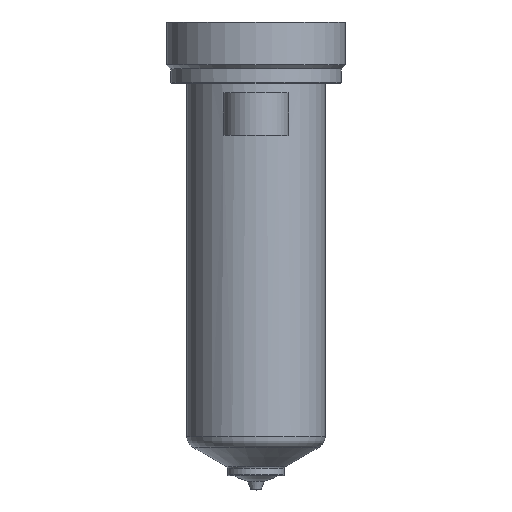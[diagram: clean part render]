
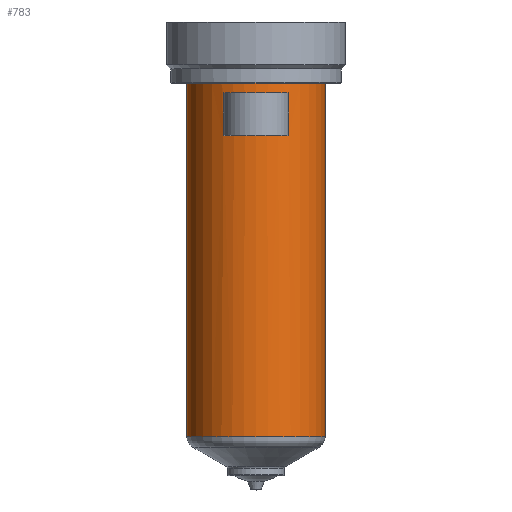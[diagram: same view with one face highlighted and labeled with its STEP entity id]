
A CAD part, top view. The second image highlights one B-rep face of the part: STEP entity #783.
In plain terms, the highlighted cylindrical face has radius 17 mm (diameter 34 mm), a partial arc.
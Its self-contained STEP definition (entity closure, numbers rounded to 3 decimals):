
#191=DIRECTION('',(0.,-1.,0.));
#192=VECTOR('',#191,86.906);
#193=CARTESIAN_POINT('',(17.,0.,0.));
#194=LINE('',#193,#192);
#195=CARTESIAN_POINT('',(0.,-86.906,0.));
#196=DIRECTION('',(0.,1.,0.));
#197=DIRECTION('',(-1.,0.,0.));
#198=AXIS2_PLACEMENT_3D('',#195,#196,#197);
#200=DIRECTION('',(0.,1.,0.));
#201=VECTOR('',#200,86.906);
#202=CARTESIAN_POINT('',(-17.,-86.906,0.));
#203=LINE('',#202,#201);
#204=CARTESIAN_POINT('',(0.,0.,0.));
#205=DIRECTION('',(0.,1.,0.));
#206=DIRECTION('',(-1.,0.,0.));
#207=AXIS2_PLACEMENT_3D('',#204,#205,#206);
#353=DIRECTION('',(0.,1.,0.));
#354=VECTOR('',#353,10.5);
#355=CARTESIAN_POINT('',(-8.,-13.,15.));
#356=LINE('',#355,#354);
#357=CARTESIAN_POINT('',(0.,-13.,0.));
#358=DIRECTION('',(0.,1.,0.));
#359=DIRECTION('',(-0.471,0.,0.882));
#360=AXIS2_PLACEMENT_3D('',#357,#358,#359);
#383=CARTESIAN_POINT('',(0.,-2.5,0.));
#384=DIRECTION('',(0.,-1.,0.));
#385=DIRECTION('',(0.471,0.,0.882));
#386=AXIS2_PLACEMENT_3D('',#383,#384,#385);
#401=DIRECTION('',(0.,1.,0.));
#402=VECTOR('',#401,10.5);
#403=CARTESIAN_POINT('',(8.,-13.,15.));
#404=LINE('',#403,#402);
#462=CARTESIAN_POINT('',(-17.,0.,0.));
#463=CARTESIAN_POINT('',(17.,0.,0.));
#464=VERTEX_POINT('',#462);
#465=VERTEX_POINT('',#463);
#474=CARTESIAN_POINT('',(-8.,-2.5,15.));
#475=VERTEX_POINT('',#474);
#476=CARTESIAN_POINT('',(8.,-2.5,15.));
#477=VERTEX_POINT('',#476);
#514=CARTESIAN_POINT('',(17.,-86.906,0.));
#515=VERTEX_POINT('',#514);
#524=CARTESIAN_POINT('',(-17.,-86.906,0.));
#525=VERTEX_POINT('',#524);
#542=CARTESIAN_POINT('',(-8.,-13.,15.));
#543=CARTESIAN_POINT('',(8.,-13.,15.));
#544=VERTEX_POINT('',#542);
#545=VERTEX_POINT('',#543);
#761=CARTESIAN_POINT('',(0.,16.4,0.));
#762=DIRECTION('',(0.,-1.,0.));
#763=DIRECTION('',(-1.,0.,0.));
#764=AXIS2_PLACEMENT_3D('',#761,#762,#763);
#765=CYLINDRICAL_SURFACE('',#764,17.);
#766=ORIENTED_EDGE('',*,*,#755,.T.);
#768=ORIENTED_EDGE('',*,*,#767,.F.);
#769=ORIENTED_EDGE('',*,*,#751,.T.);
#770=ORIENTED_EDGE('',*,*,#741,.T.);
#771=EDGE_LOOP('',(#766,#768,#769,#770));
#772=FACE_OUTER_BOUND('',#771,.F.);
#774=ORIENTED_EDGE('',*,*,#773,.F.);
#776=ORIENTED_EDGE('',*,*,#775,.T.);
#778=ORIENTED_EDGE('',*,*,#777,.T.);
#780=ORIENTED_EDGE('',*,*,#779,.T.);
#781=EDGE_LOOP('',(#774,#776,#778,#780));
#782=FACE_BOUND('',#781,.F.);
#783=ADVANCED_FACE('',(#772,#782),#765,.T.);
#199=CIRCLE('',#198,17.);
#208=CIRCLE('',#207,17.);
#361=CIRCLE('',#360,17.);
#387=CIRCLE('',#386,17.);
#741=EDGE_CURVE('',#464,#465,#208,.T.);
#751=EDGE_CURVE('',#525,#464,#203,.T.);
#755=EDGE_CURVE('',#465,#515,#194,.T.);
#767=EDGE_CURVE('',#525,#515,#199,.T.);
#773=EDGE_CURVE('',#544,#475,#356,.T.);
#775=EDGE_CURVE('',#544,#545,#361,.T.);
#777=EDGE_CURVE('',#545,#477,#404,.T.);
#779=EDGE_CURVE('',#477,#475,#387,.T.);
